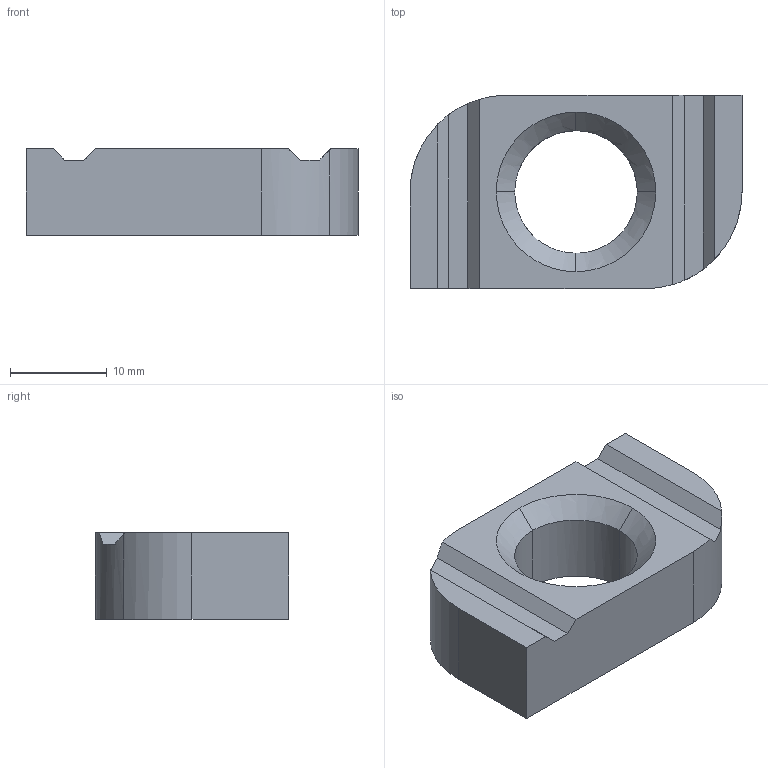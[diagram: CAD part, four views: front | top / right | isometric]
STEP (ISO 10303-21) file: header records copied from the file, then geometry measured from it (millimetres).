
FILE_DESCRIPTION(('TurboCAD Mac Pro'),'Build 980');
FILE_NAME('P3010.stp',' ',(''),(''),'ACIS Interop','IMSI','TurboCAD Mac Pro BY IMSI, INCORPORATED');
FILE_SCHEMA(('automotive_design'));
Length unit declared in the file: inch
Products named in the file (1): 1
Bounding box: 34.4 x 20 x 9 mm (x, y, z)
Volume: 4443 mm3; surface area: 2278 mm2
Topology: 1 solids, 1 shells, 26 faces, 68 edges, 44 vertices
Faces by surface type: plane 14, bspline 8, cylinder 4
Entity records: 1436 total; most frequent: CARTESIAN_POINT 591, ORIENTED_EDGE 136, DIRECTION 110, EDGE_CURVE 68, VERTEX_POINT 44, LINE 40, VECTOR 40, AXIS2_PLACEMENT_3D 35
